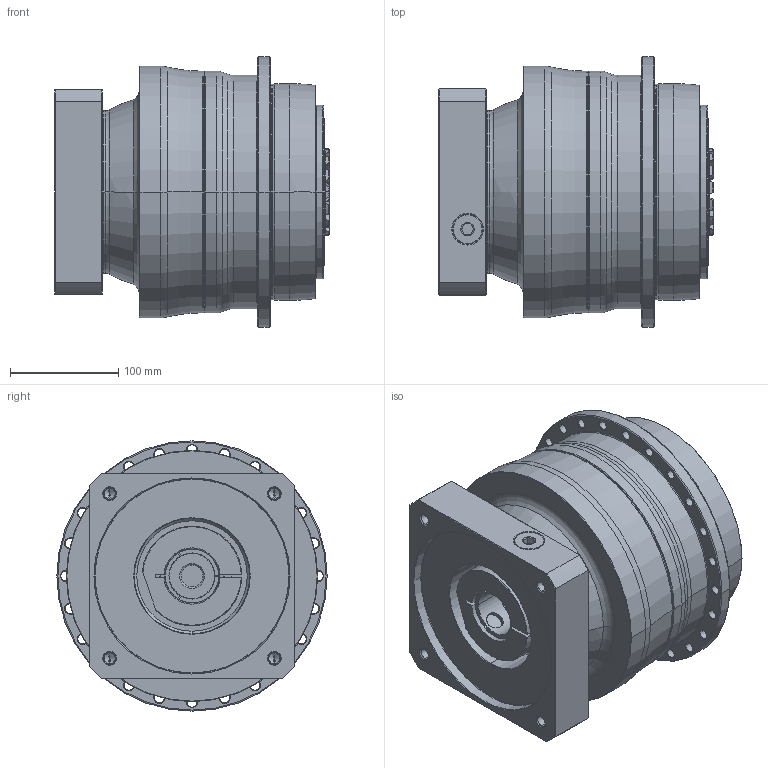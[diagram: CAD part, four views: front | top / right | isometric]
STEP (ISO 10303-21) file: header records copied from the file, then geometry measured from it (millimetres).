
FILE_DESCRIPTION((''),'2;1');
FILE_NAME('APC200_2ST_42-P0409A00201_ASM','2018-06-29T',('d01226'),(''),'PRO/ENGINEER BY PARAMETRIC TECHNOLOGY CORPORATION, 2008410','PRO/ENGINEER BY PARAMETRIC TECHNOLOGY CORPORATION, 2008410','');
FILE_SCHEMA(('CONFIG_CONTROL_DESIGN'));
Length unit declared in the file: millimetre
Products named in the file (9): P0278601003; P0359660103; P1317610501; P0503A00012; P0912505001; P1211600001; P0409A00201; 21711422019; APC200_2ST_42-P0409A00201_ASM
Assembly tree (8 placements, depth 2):
  APC200_2ST_42-P0409A00201_ASM
    P0278601003
    P0359660103
    P1317610501
    P0503A00012
    P0912505001
    P1211600001
    P0409A00201
    21711422019
Bounding box: 253.1 x 249.5 x 249.5 mm (x, y, z)
Volume: 7623192.8 mm3; surface area: 628162.7 mm2
Topology: 9 solids, 19 shells, 677 faces, 1619 edges, 983 vertices
Faces by surface type: cone 224, cylinder 212, plane 121, torus 104, bspline 16
Entity records: 24897 total; most frequent: CARTESIAN_POINT 8739, DIRECTION 3629, ORIENTED_EDGE 3160, EDGE_CURVE 1601, AXIS2_PLACEMENT_3D 1575, VERTEX_POINT 983, CIRCLE 887, EDGE_LOOP 782
